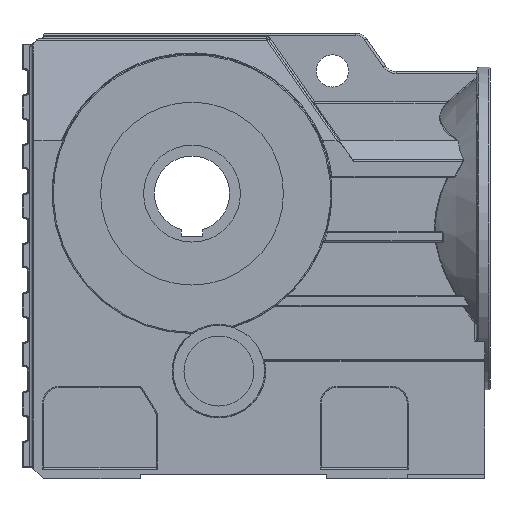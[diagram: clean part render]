
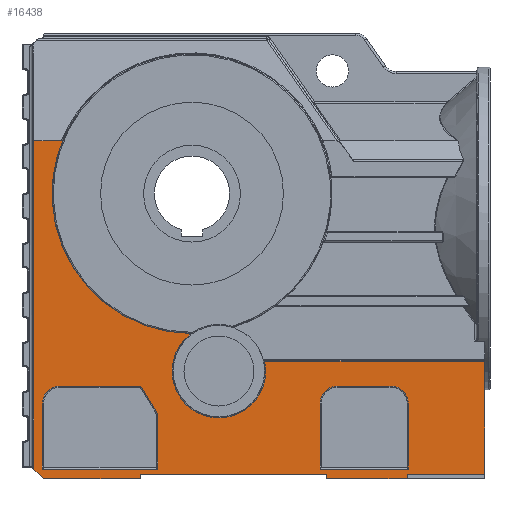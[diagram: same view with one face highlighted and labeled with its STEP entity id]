
A CAD part, front view. The second image highlights one B-rep face of the part: STEP entity #16438.
In plain terms, the highlighted planar face has unit normal (0, -1, 0).
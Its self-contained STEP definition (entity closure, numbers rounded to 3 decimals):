
#3521=CARTESIAN_POINT('',(215.0,-113.0,109.));
#3522=VERTEX_POINT('',#3521);
#3530=CARTESIAN_POINT('',(215.0,-113.0,4.0));
#3531=VERTEX_POINT('',#3530);
#3532=CARTESIAN_POINT('',(215.0,-113.0,4.0));
#3533=DIRECTION('',(0.0,0.0,1.0));
#3534=VECTOR('',#3533,105.);
#3535=LINE('',#3532,#3534);
#3536=EDGE_CURVE('',#3531,#3522,#3535,.T.);
#4103=CARTESIAN_POINT('',(10.559,-113.0,109.));
#4104=VERTEX_POINT('',#4103);
#4112=CARTESIAN_POINT('',(10.559,-113.0,109.));
#4113=DIRECTION('',(1.0,0.0,0.0));
#4114=VECTOR('',#4113,204.441);
#4115=LINE('',#4112,#4114);
#4116=EDGE_CURVE('',#4104,#3522,#4115,.T.);
#8296=CARTESIAN_POINT('',(-204.0,-113.0,9.));
#8297=VERTEX_POINT('',#8296);
#8305=CARTESIAN_POINT('',(-204.0,-113.0,314.));
#8306=VERTEX_POINT('',#8305);
#8307=CARTESIAN_POINT('',(-204.0,-113.0,9.));
#8308=DIRECTION('',(0.0,0.0,1.0));
#8309=VECTOR('',#8308,305.);
#8310=LINE('',#8307,#8309);
#8311=EDGE_CURVE('',#8297,#8306,#8310,.T.);
#15648=CARTESIAN_POINT('',(-175.397,-113.0,318.686));
#15649=VERTEX_POINT('',#15648);
#15657=CARTESIAN_POINT('',(-59.096,-113.0,135.017));
#15658=VERTEX_POINT('',#15657);
#15659=CARTESIAN_POINT('',(-57.,-113.0,265.0));
#15660=DIRECTION('',(0.0,1.0,0.0));
#15661=DIRECTION('',(-1.0,0.0,0.0));
#15662=AXIS2_PLACEMENT_3D('',#15659,#15660,#15661);
#15663=CIRCLE('',#15662,130.0);
#15664=EDGE_CURVE('',#15658,#15649,#15663,.T.);
#16185=CARTESIAN_POINT('',(-58.323,-113.0,134.631));
#16186=VERTEX_POINT('',#16185);
#16204=CARTESIAN_POINT('',(-32.,-113.0,100.0));
#16205=DIRECTION('',(0.0,-1.0,0.0));
#16206=DIRECTION('',(-0.357,0.0,-0.934));
#16207=AXIS2_PLACEMENT_3D('',#16204,#16205,#16206);
#16208=CIRCLE('',#16207,43.5);
#16209=EDGE_CURVE('',#16186,#4104,#16208,.T.);
#16227=CARTESIAN_POINT('',(-59.113,-113.0,134.017));
#16228=DIRECTION('',(0.0,-1.,0.0));
#16229=DIRECTION('',(0.947,0.0,0.323));
#16230=AXIS2_PLACEMENT_3D('',#16227,#16228,#16229);
#16231=CIRCLE('',#16230,1.);
#16232=EDGE_CURVE('',#16186,#15658,#16231,.T.);
#16239=CARTESIAN_POINT('',(215.0,-113.0,0.0));
#16240=DIRECTION('',(0.0,-1.0,0.0));
#16241=DIRECTION('',(0.0,0.0,-1.0));
#16242=AXIS2_PLACEMENT_3D('',#16239,#16240,#16241);
#16243=PLANE('',#16242);
#16244=ORIENTED_EDGE('',*,*,#4116,.F.);
#16245=ORIENTED_EDGE('',*,*,#16209,.F.);
#16246=ORIENTED_EDGE('',*,*,#16232,.T.);
#16247=ORIENTED_EDGE('',*,*,#15664,.T.);
#16248=CARTESIAN_POINT('',(-178.411,-113.0,314.));
#16249=VERTEX_POINT('',#16248);
#16250=CARTESIAN_POINT('',(-178.411,-113.,314.));
#16251=CARTESIAN_POINT('',(-178.379,-113.,314.));
#16252=CARTESIAN_POINT('',(-178.347,-113.0,314.007));
#16253=CARTESIAN_POINT('',(-178.259,-113.0,314.037));
#16254=CARTESIAN_POINT('',(-178.203,-113.,314.07));
#16255=CARTESIAN_POINT('',(-178.021,-113.,314.198));
#16256=CARTESIAN_POINT('',(-177.887,-113.,314.34));
#16257=CARTESIAN_POINT('',(-177.098,-113.,315.26));
#16258=CARTESIAN_POINT('',(-176.181,-113.0,316.956));
#16259=CARTESIAN_POINT('',(-175.397,-113.0,318.686));
#16260=B_SPLINE_CURVE_WITH_KNOTS('',3,(#16250,#16251,#16252,#16253,#16254,#16255,#16256,#16257,#16258,#16259),.UNSPECIFIED.,.F.,.U.,(4,2,2,2,4),(0.0,0.01,0.028,0.077,0.393),.UNSPECIFIED.);
#16261=EDGE_CURVE('',#16249,#15649,#16260,.T.);
#16262=ORIENTED_EDGE('',*,*,#16261,.F.);
#16263=CARTESIAN_POINT('',(-204.0,-113.0,314.));
#16264=DIRECTION('',(1.0,0.0,0.0));
#16265=VECTOR('',#16264,25.589);
#16266=LINE('',#16263,#16265);
#16267=EDGE_CURVE('',#8306,#16249,#16266,.T.);
#16268=ORIENTED_EDGE('',*,*,#16267,.F.);
#16269=ORIENTED_EDGE('',*,*,#8311,.F.);
#16270=CARTESIAN_POINT('',(-195.0,-113.0,0.0));
#16271=VERTEX_POINT('',#16270);
#16272=CARTESIAN_POINT('',(-195.,-113.0,0.0));
#16273=DIRECTION('',(-0.707,0.0,0.707));
#16274=VECTOR('',#16273,12.728);
#16275=LINE('',#16272,#16274);
#16276=EDGE_CURVE('',#16271,#8297,#16275,.T.);
#16277=ORIENTED_EDGE('',*,*,#16276,.F.);
#16278=CARTESIAN_POINT('',(-105.,-113.0,0.0));
#16279=VERTEX_POINT('',#16278);
#16280=CARTESIAN_POINT('',(-195.0,-113.0,0.0));
#16281=DIRECTION('',(1.0,0.0,0.0));
#16282=VECTOR('',#16281,90.);
#16283=LINE('',#16280,#16282);
#16284=EDGE_CURVE('',#16271,#16279,#16283,.T.);
#16285=ORIENTED_EDGE('',*,*,#16284,.T.);
#16286=CARTESIAN_POINT('',(-105.,-113.0,4.0));
#16287=VERTEX_POINT('',#16286);
#16288=CARTESIAN_POINT('',(-105.0,-113.0,0.0));
#16289=DIRECTION('',(0.0,0.0,1.0));
#16290=VECTOR('',#16289,4.0);
#16291=LINE('',#16288,#16290);
#16292=EDGE_CURVE('',#16279,#16287,#16291,.T.);
#16293=ORIENTED_EDGE('',*,*,#16292,.T.);
#16294=CARTESIAN_POINT('',(68.,-113.0,4.0));
#16295=VERTEX_POINT('',#16294);
#16296=CARTESIAN_POINT('',(-105.,-113.0,4.0));
#16297=DIRECTION('',(1.0,0.0,0.0));
#16298=VECTOR('',#16297,173.0);
#16299=LINE('',#16296,#16298);
#16300=EDGE_CURVE('',#16287,#16295,#16299,.T.);
#16301=ORIENTED_EDGE('',*,*,#16300,.T.);
#16302=CARTESIAN_POINT('',(68.,-113.0,0.0));
#16303=VERTEX_POINT('',#16302);
#16304=CARTESIAN_POINT('',(68.,-113.0,4.0));
#16305=DIRECTION('',(0.0,0.0,-1.0));
#16306=VECTOR('',#16305,4.0);
#16307=LINE('',#16304,#16306);
#16308=EDGE_CURVE('',#16295,#16303,#16307,.T.);
#16309=ORIENTED_EDGE('',*,*,#16308,.T.);
#16310=CARTESIAN_POINT('',(143.,-113.0,0.0));
#16311=VERTEX_POINT('',#16310);
#16312=CARTESIAN_POINT('',(68.0,-113.0,0.0));
#16313=DIRECTION('',(1.0,0.0,0.0));
#16314=VECTOR('',#16313,75.0);
#16315=LINE('',#16312,#16314);
#16316=EDGE_CURVE('',#16303,#16311,#16315,.T.);
#16317=ORIENTED_EDGE('',*,*,#16316,.T.);
#16318=CARTESIAN_POINT('',(143.,-113.0,4.0));
#16319=VERTEX_POINT('',#16318);
#16320=CARTESIAN_POINT('',(143.,-113.0,0.0));
#16321=DIRECTION('',(0.0,0.0,1.0));
#16322=VECTOR('',#16321,4.0);
#16323=LINE('',#16320,#16322);
#16324=EDGE_CURVE('',#16311,#16319,#16323,.T.);
#16325=ORIENTED_EDGE('',*,*,#16324,.T.);
#16326=CARTESIAN_POINT('',(143.,-113.0,4.0));
#16327=DIRECTION('',(1.0,0.0,0.0));
#16328=VECTOR('',#16327,72.);
#16329=LINE('',#16326,#16328);
#16330=EDGE_CURVE('',#16319,#3531,#16329,.T.);
#16331=ORIENTED_EDGE('',*,*,#16330,.T.);
#16332=ORIENTED_EDGE('',*,*,#3536,.T.);
#16333=EDGE_LOOP('',(#16244,#16245,#16246,#16247,#16262,#16268,#16269,#16277,#16285,#16293,#16301,#16309,#16317,#16325,#16331,#16332));
#16334=FACE_OUTER_BOUND('',#16333,.T.);
#16335=CARTESIAN_POINT('',(144.,-113.0,9.0));
#16336=VERTEX_POINT('',#16335);
#16337=CARTESIAN_POINT('',(144.,-113.0,70.0));
#16338=VERTEX_POINT('',#16337);
#16339=CARTESIAN_POINT('',(144.,-113.0,9.0));
#16340=DIRECTION('',(0.0,0.0,1.0));
#16341=VECTOR('',#16340,61.0);
#16342=LINE('',#16339,#16341);
#16343=EDGE_CURVE('',#16336,#16338,#16342,.T.);
#16344=ORIENTED_EDGE('',*,*,#16343,.F.);
#16345=CARTESIAN_POINT('',(62.,-113.0,9.0));
#16346=VERTEX_POINT('',#16345);
#16347=CARTESIAN_POINT('',(62.,-113.0,9.0));
#16348=DIRECTION('',(1.0,0.0,0.0));
#16349=VECTOR('',#16348,82.0);
#16350=LINE('',#16347,#16349);
#16351=EDGE_CURVE('',#16346,#16336,#16350,.T.);
#16352=ORIENTED_EDGE('',*,*,#16351,.F.);
#16353=CARTESIAN_POINT('',(62.,-113.0,70.0));
#16354=VERTEX_POINT('',#16353);
#16355=CARTESIAN_POINT('',(62.,-113.0,70.0));
#16356=DIRECTION('',(0.0,0.0,-1.0));
#16357=VECTOR('',#16356,61.0);
#16358=LINE('',#16355,#16357);
#16359=EDGE_CURVE('',#16354,#16346,#16358,.T.);
#16360=ORIENTED_EDGE('',*,*,#16359,.F.);
#16361=CARTESIAN_POINT('',(78.,-113.0,86.0));
#16362=VERTEX_POINT('',#16361);
#16363=CARTESIAN_POINT('',(78.,-113.0,70.0));
#16364=DIRECTION('',(0.0,-1.,0.0));
#16365=DIRECTION('',(-0.707,0.0,0.707));
#16366=AXIS2_PLACEMENT_3D('',#16363,#16364,#16365);
#16367=CIRCLE('',#16366,16.);
#16368=EDGE_CURVE('',#16362,#16354,#16367,.T.);
#16369=ORIENTED_EDGE('',*,*,#16368,.F.);
#16370=CARTESIAN_POINT('',(128.,-113.0,86.0));
#16371=VERTEX_POINT('',#16370);
#16372=CARTESIAN_POINT('',(128.,-113.0,86.0));
#16373=DIRECTION('',(-1.0,0.0,0.0));
#16374=VECTOR('',#16373,50.0);
#16375=LINE('',#16372,#16374);
#16376=EDGE_CURVE('',#16371,#16362,#16375,.T.);
#16377=ORIENTED_EDGE('',*,*,#16376,.F.);
#16378=CARTESIAN_POINT('',(128.,-113.0,70.0));
#16379=DIRECTION('',(0.0,-1.,0.0));
#16380=DIRECTION('',(0.707,0.0,0.707));
#16381=AXIS2_PLACEMENT_3D('',#16378,#16379,#16380);
#16382=CIRCLE('',#16381,16.);
#16383=EDGE_CURVE('',#16338,#16371,#16382,.T.);
#16384=ORIENTED_EDGE('',*,*,#16383,.F.);
#16385=EDGE_LOOP('',(#16344,#16352,#16360,#16369,#16377,#16384));
#16386=FACE_BOUND('',#16385,.T.);
#16387=CARTESIAN_POINT('',(-89.,-113.0,9.0));
#16388=VERTEX_POINT('',#16387);
#16389=CARTESIAN_POINT('',(-89.,-113.0,60.277));
#16390=VERTEX_POINT('',#16389);
#16391=CARTESIAN_POINT('',(-89.,-113.0,9.0));
#16392=DIRECTION('',(0.0,0.0,1.0));
#16393=VECTOR('',#16392,51.277);
#16394=LINE('',#16391,#16393);
#16395=EDGE_CURVE('',#16388,#16390,#16394,.T.);
#16396=ORIENTED_EDGE('',*,*,#16395,.F.);
#16397=CARTESIAN_POINT('',(-196.,-113.0,9.0));
#16398=VERTEX_POINT('',#16397);
#16399=CARTESIAN_POINT('',(-196.,-113.0,9.0));
#16400=DIRECTION('',(1.0,0.0,0.0));
#16401=VECTOR('',#16400,107.);
#16402=LINE('',#16399,#16401);
#16403=EDGE_CURVE('',#16398,#16388,#16402,.T.);
#16404=ORIENTED_EDGE('',*,*,#16403,.F.);
#16405=CARTESIAN_POINT('',(-196.,-113.0,70.0));
#16406=VERTEX_POINT('',#16405);
#16407=CARTESIAN_POINT('',(-196.,-113.0,70.0));
#16408=DIRECTION('',(0.0,0.0,-1.0));
#16409=VECTOR('',#16408,61.0);
#16410=LINE('',#16407,#16409);
#16411=EDGE_CURVE('',#16406,#16398,#16410,.T.);
#16412=ORIENTED_EDGE('',*,*,#16411,.F.);
#16413=CARTESIAN_POINT('',(-180.,-113.0,86.0));
#16414=VERTEX_POINT('',#16413);
#16415=CARTESIAN_POINT('',(-180.,-113.0,70.0));
#16416=DIRECTION('',(0.0,-1.,0.0));
#16417=DIRECTION('',(-0.707,0.0,0.707));
#16418=AXIS2_PLACEMENT_3D('',#16415,#16416,#16417);
#16419=CIRCLE('',#16418,16.0);
#16420=EDGE_CURVE('',#16414,#16406,#16419,.T.);
#16421=ORIENTED_EDGE('',*,*,#16420,.F.);
#16422=CARTESIAN_POINT('',(-104.434,-113.0,86.0));
#16423=VERTEX_POINT('',#16422);
#16424=CARTESIAN_POINT('',(-104.434,-113.0,86.0));
#16425=DIRECTION('',(-1.0,0.0,0.0));
#16426=VECTOR('',#16425,75.566);
#16427=LINE('',#16424,#16426);
#16428=EDGE_CURVE('',#16423,#16414,#16427,.T.);
#16429=ORIENTED_EDGE('',*,*,#16428,.F.);
#16430=CARTESIAN_POINT('',(-89.,-113.0,60.277));
#16431=DIRECTION('',(-0.514,0.0,0.857));
#16432=VECTOR('',#16431,29.998);
#16433=LINE('',#16430,#16432);
#16434=EDGE_CURVE('',#16390,#16423,#16433,.T.);
#16435=ORIENTED_EDGE('',*,*,#16434,.F.);
#16436=EDGE_LOOP('',(#16396,#16404,#16412,#16421,#16429,#16435));
#16437=FACE_BOUND('',#16436,.T.);
#16438=ADVANCED_FACE('',(#16334,#16386,#16437),#16243,.T.);
